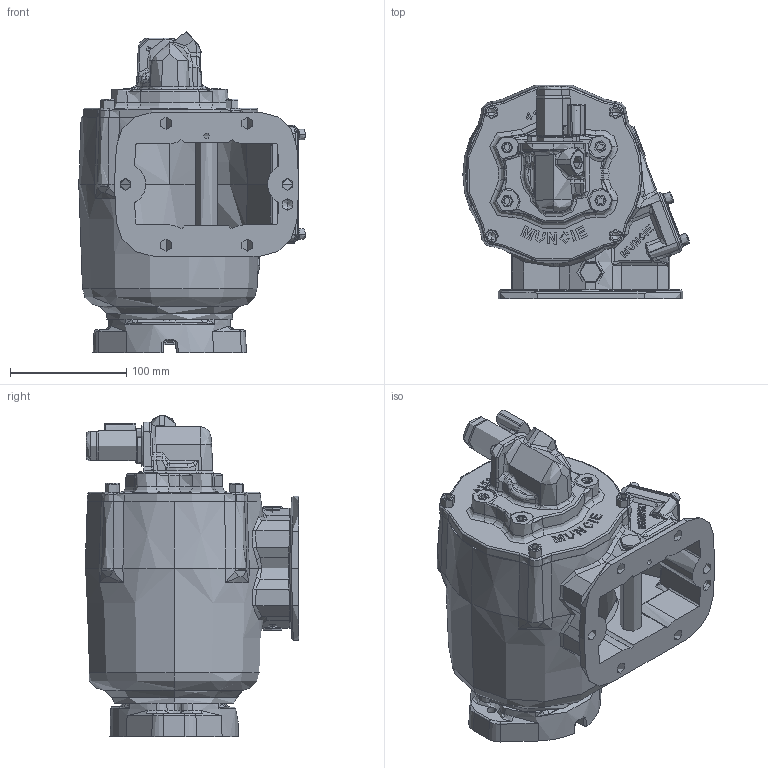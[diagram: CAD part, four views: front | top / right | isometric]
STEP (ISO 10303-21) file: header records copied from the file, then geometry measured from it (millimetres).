
FILE_DESCRIPTION (( 'STEP AP203' ), '1' );
FILE_NAME ('CS6S-XXXXX-S1QX.STEP', '2023-04-07T14:47:30', ( '' ), ( '' ), 'SwSTEP 2.0', 'SolidWorks 2021', '' );
FILE_SCHEMA (( 'CONFIG_CONTROL_DESIGN' ));
Length unit declared in the file: inch
Products named in the file (11): 16T41119; 07T37071; 19T41118; 01t37073a; 19T40859; 15T41597; 25T21684-1; 35T40860a; CS6S-XXXXX-S1QX; 19T35237; 14T39141
Assembly tree (21 placements, depth 2):
  CS6S-XXXXX-S1QX
    01t37073a
    16T41119
    14T39141
    19T41118  x4
    19T35237  x4
    15T41597
    35T40860a
    25T21684-1  x5
    07T37071
    19T40859  x2
Bounding box: 194.82 x 183.98 x 276.63 mm (x, y, z)
Topology: 20 solids, 24 shells, 2423 faces, 6186 edges, 3832 vertices
Faces by surface type: bspline 831, plane 638, cylinder 548, cone 272, torus 130, sphere 4
Entity records: 142462 total; most frequent: CARTESIAN_POINT 93837, ORIENTED_EDGE 11232, DIRECTION 7452, EDGE_CURVE 5618, VERTEX_POINT 3537, AXIS2_PLACEMENT_3D 2677, EDGE_LOOP 2405, ADVANCED_FACE 2210
